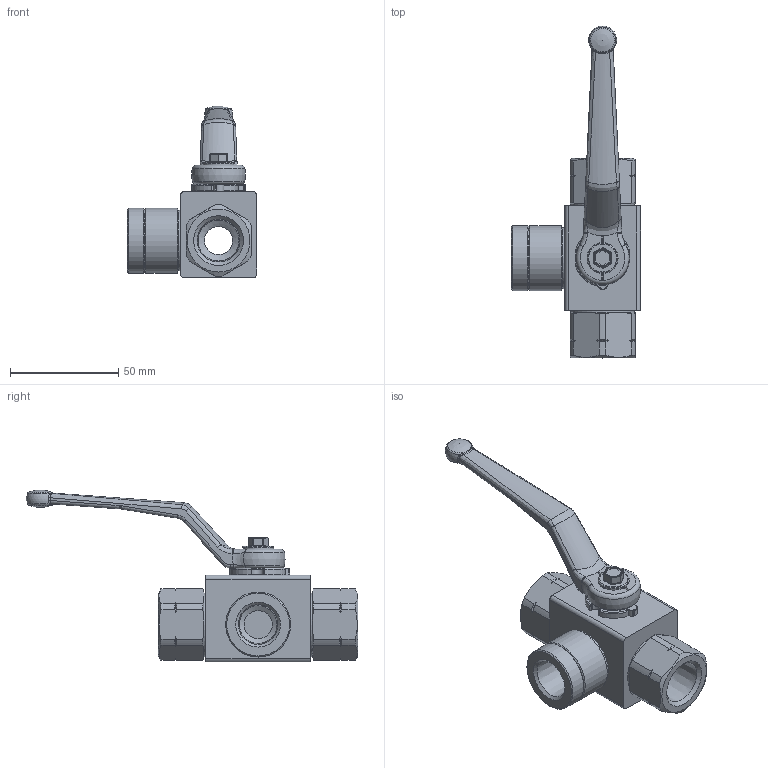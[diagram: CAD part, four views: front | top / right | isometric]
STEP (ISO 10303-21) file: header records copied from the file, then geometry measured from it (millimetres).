
FILE_DESCRIPTION( ( 'Unknown' ), '1' );
FILE_NAME( 'H:/PISTER/3D-MODELLE/BK3 stp/BK3 DN13 1_2 NPT.stp', 'Unknown', ( 'Unknown' ), ( 'Unknown' ), 'PSStep 14.0', 'Unknown', ' ' );
FILE_SCHEMA( ( 'AUTOMOTIVE_DESIGN { 1 0 10303 214 1 1 1 1 }' ) );
Length unit declared in the file: millimetre
Products named in the file (10): Assem1; 06-013-102-oa7; 09-09-002; 58-28740-07-oa8; Griff_SW9; 58-0933-133; 04-013-131-oa9; 04-013-131-oa10; 01-013-026-oa11; 04-013-070-oa12
Assembly tree (9 placements, depth 2):
  Assem1
    06-013-102-oa7
    09-09-002
    58-28740-07-oa8
    Griff_SW9
    58-0933-133
    04-013-131-oa9
    04-013-131-oa10
    01-013-026-oa11
    04-013-070-oa12
Bounding box: 59.5 x 153 x 79.3 mm (x, y, z)
Volume: 56066.8 mm3; surface area: 37470 mm2
Topology: 9 solids, 9 shells, 401 faces, 1012 edges, 614 vertices
Faces by surface type: cylinder 140, plane 112, cone 49, bspline 42, torus 38, sphere 20
Full cylindrical faces by diameter (mm): 4.2 x1, 4.98 x1, 5 x1, 13 x3, 14 x2, 14.3 x1, 17.473 x1, 18.923 x2, 27 x2, 28 x1, 28.1 x1, 29.5 x2, 30 x4
Entity records: 16590 total; most frequent: CARTESIAN_POINT 4244, DIRECTION 1911, ORIENTED_EDGE 1810, EDGE_CURVE 905, AXIS2_PLACEMENT_3D 783, VERTEX_POINT 585, EDGE_LOOP 484, FACE_OUTER_BOUND 433
